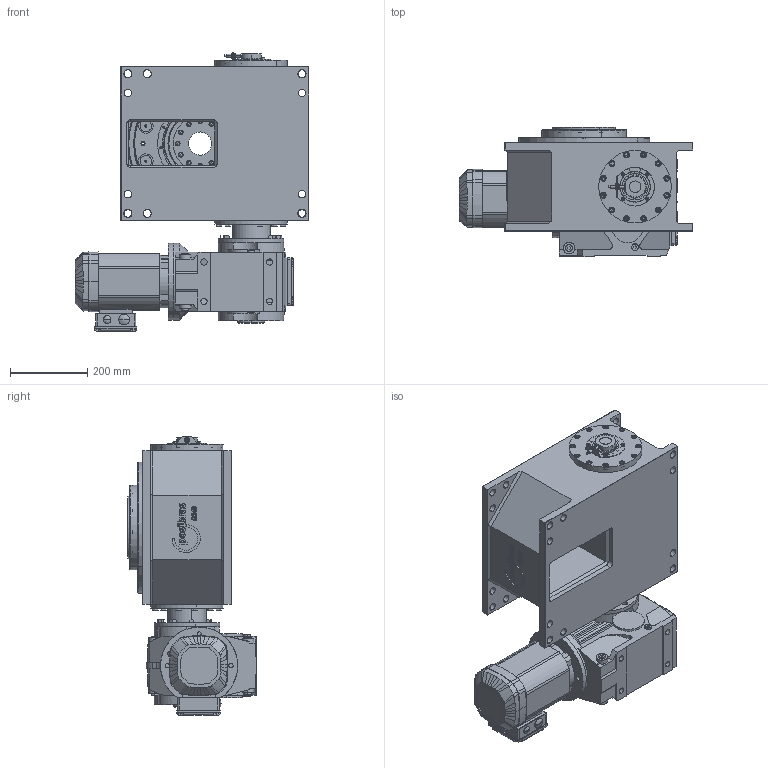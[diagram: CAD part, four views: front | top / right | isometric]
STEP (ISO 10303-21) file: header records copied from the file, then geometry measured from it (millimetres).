
FILE_DESCRIPTION (( 'STEP AP214' ), '1' );
FILE_NAME ('M340_SEW_KA77DRE80M4_D1_10.STEP', '2020-06-17T12:34:24', ( '' ), ( '' ), 'SwSTEP 2.0', 'SolidWorks 2020', '' );
FILE_SCHEMA (( 'AUTOMOTIVE_DESIGN' ));
Length unit declared in the file: millimetre
Products named in the file (1): M340_SEW_KA77DRE80M4_D1_10
Bounding box: 606 x 334 x 721.97 mm (x, y, z)
Surface area: 1893531.6 mm2 (no closed solid volume)
Topology: 0 solids, 125 shells, 1813 faces, 5522 edges, 3702 vertices
Faces by surface type: plane 860, cylinder 558, cone 194, bspline 105, torus 92, sphere 4
Entity records: 90142 total; most frequent: CARTESIAN_POINT 21488, DIRECTION 10224, ORIENTED_EDGE 9194, EDGE_CURVE 5478, VERTEX_POINT 3702, AXIS2_PLACEMENT_3D 3609, LINE 3006, VECTOR 3006
